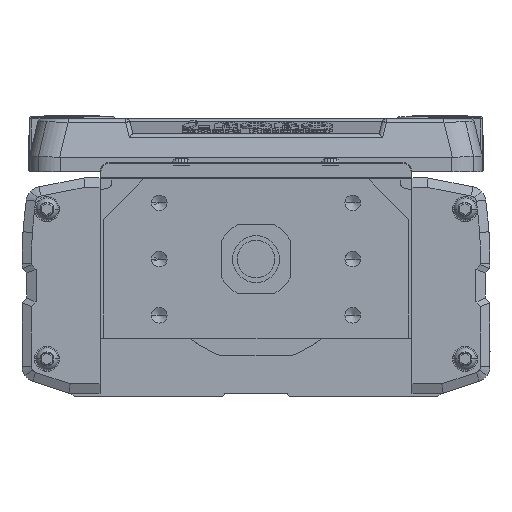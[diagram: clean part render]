
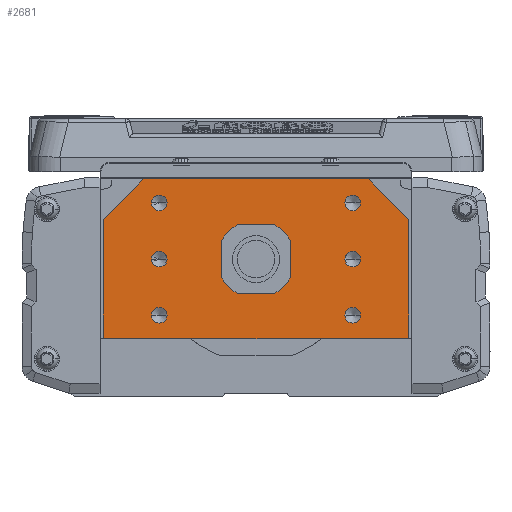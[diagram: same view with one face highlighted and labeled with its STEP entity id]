
A CAD part, left-side view. The second image highlights one B-rep face of the part: STEP entity #2681.
In plain terms, the highlighted planar face has unit normal (-1, 0, 0).
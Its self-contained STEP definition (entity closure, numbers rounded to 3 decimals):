
#2681=ADVANCED_FACE('',(#6939,#6940,#6941,#6942,#6943,#6944,#6945,#6946),#6947,.F.);
#6939=FACE_OUTER_BOUND('',#13475,.T.);
#6940=FACE_BOUND('',#13476,.T.);
#6941=FACE_BOUND('',#13477,.T.);
#6942=FACE_BOUND('',#13478,.T.);
#6943=FACE_BOUND('',#13479,.T.);
#6944=FACE_BOUND('',#13480,.T.);
#6945=FACE_BOUND('',#13481,.T.);
#6946=FACE_BOUND('',#13482,.T.);
#6947=PLANE('',#13483);
#13475=EDGE_LOOP('',(#21724,#21725,#21726,#21727,#21728,#21729,#21730,#21731));
#13476=EDGE_LOOP('',(#21732,#21733));
#13477=EDGE_LOOP('',(#21734,#21735));
#13478=EDGE_LOOP('',(#21736,#21737));
#13479=EDGE_LOOP('',(#21738,#21739));
#13480=EDGE_LOOP('',(#21740,#21741));
#13481=EDGE_LOOP('',(#21742,#21743));
#13482=EDGE_LOOP('',(#21744,#21745));
#13483=AXIS2_PLACEMENT_3D('',#21746,#21747,#21748);
#21724=ORIENTED_EDGE('',*,*,#37778,.F.);
#21725=ORIENTED_EDGE('',*,*,#38629,.F.);
#21726=ORIENTED_EDGE('',*,*,#38630,.F.);
#21727=ORIENTED_EDGE('',*,*,#38631,.F.);
#21728=ORIENTED_EDGE('',*,*,#38632,.F.);
#21729=ORIENTED_EDGE('',*,*,#38633,.F.);
#21730=ORIENTED_EDGE('',*,*,#38634,.F.);
#21731=ORIENTED_EDGE('',*,*,#38635,.F.);
#21732=ORIENTED_EDGE('',*,*,#38636,.T.);
#21733=ORIENTED_EDGE('',*,*,#38637,.T.);
#21734=ORIENTED_EDGE('',*,*,#38638,.T.);
#21735=ORIENTED_EDGE('',*,*,#38549,.T.);
#21736=ORIENTED_EDGE('',*,*,#38639,.T.);
#21737=ORIENTED_EDGE('',*,*,#38640,.T.);
#21738=ORIENTED_EDGE('',*,*,#38641,.T.);
#21739=ORIENTED_EDGE('',*,*,#38642,.T.);
#21740=ORIENTED_EDGE('',*,*,#38643,.T.);
#21741=ORIENTED_EDGE('',*,*,#38644,.T.);
#21742=ORIENTED_EDGE('',*,*,#38645,.T.);
#21743=ORIENTED_EDGE('',*,*,#38646,.T.);
#21744=ORIENTED_EDGE('',*,*,#38011,.F.);
#21745=ORIENTED_EDGE('',*,*,#38647,.F.);
#21746=CARTESIAN_POINT('',(0.,0.275,-2.548));
#21747=DIRECTION('',(1.0,0.,0.));
#21748=DIRECTION('',(0.,1.0,0.));
#37778=EDGE_CURVE('',#44822,#44823,#44824,.T.);
#38011=EDGE_CURVE('',#45240,#45235,#45242,.F.);
#38549=EDGE_CURVE('',#46182,#46180,#46183,.T.);
#38629=EDGE_CURVE('',#46321,#44822,#46322,.T.);
#38630=EDGE_CURVE('',#46323,#46321,#46324,.T.);
#38631=EDGE_CURVE('',#46325,#46323,#46326,.T.);
#38632=EDGE_CURVE('',#46327,#46325,#46328,.T.);
#38633=EDGE_CURVE('',#46329,#46327,#46330,.T.);
#38634=EDGE_CURVE('',#46331,#46329,#46332,.T.);
#38635=EDGE_CURVE('',#44823,#46331,#46333,.T.);
#38636=EDGE_CURVE('',#46334,#46335,#46336,.T.);
#38637=EDGE_CURVE('',#46335,#46334,#46337,.T.);
#38638=EDGE_CURVE('',#46180,#46182,#46338,.T.);
#38639=EDGE_CURVE('',#46339,#46340,#46341,.T.);
#38640=EDGE_CURVE('',#46340,#46339,#46342,.T.);
#38641=EDGE_CURVE('',#46343,#46344,#46345,.T.);
#38642=EDGE_CURVE('',#46344,#46343,#46346,.T.);
#38643=EDGE_CURVE('',#46347,#46348,#46349,.T.);
#38644=EDGE_CURVE('',#46348,#46347,#46350,.T.);
#38645=EDGE_CURVE('',#46351,#46352,#46353,.T.);
#38646=EDGE_CURVE('',#46352,#46351,#46354,.T.);
#38647=EDGE_CURVE('',#45235,#45240,#46355,.F.);
#44822=VERTEX_POINT('',#55088);
#44823=VERTEX_POINT('',#55089);
#44824=LINE('',#55090,#55091);
#45235=VERTEX_POINT('',#55649);
#45240=VERTEX_POINT('',#55655);
#45242=CIRCLE('',#55658,7.5);
#46180=VERTEX_POINT('',#56914);
#46182=VERTEX_POINT('',#56917);
#46183=CIRCLE('',#56918,2.5);
#46321=VERTEX_POINT('',#57131);
#46322=LINE('',#57132,#57133);
#46323=VERTEX_POINT('',#57134);
#46324=LINE('',#57135,#57136);
#46325=VERTEX_POINT('',#57137);
#46326=LINE('',#57138,#57139);
#46327=VERTEX_POINT('',#57140);
#46328=LINE('',#57141,#57142);
#46329=VERTEX_POINT('',#57143);
#46330=LINE('',#57144,#57145);
#46331=VERTEX_POINT('',#57146);
#46332=LINE('',#57147,#57148);
#46333=LINE('',#57149,#57150);
#46334=VERTEX_POINT('',#57151);
#46335=VERTEX_POINT('',#57152);
#46336=CIRCLE('',#57153,2.5);
#46337=CIRCLE('',#57154,2.5);
#46338=CIRCLE('',#57155,2.5);
#46339=VERTEX_POINT('',#57156);
#46340=VERTEX_POINT('',#57157);
#46341=CIRCLE('',#57158,2.5);
#46342=CIRCLE('',#57159,2.5);
#46343=VERTEX_POINT('',#57160);
#46344=VERTEX_POINT('',#57161);
#46345=CIRCLE('',#57162,2.5);
#46346=CIRCLE('',#57163,2.5);
#46347=VERTEX_POINT('',#57164);
#46348=VERTEX_POINT('',#57165);
#46349=CIRCLE('',#57166,2.5);
#46350=CIRCLE('',#57167,2.5);
#46351=VERTEX_POINT('',#57168);
#46352=VERTEX_POINT('',#57169);
#46353=CIRCLE('',#57170,2.5);
#46354=CIRCLE('',#57171,2.5);
#46355=CIRCLE('',#57172,7.5);
#55088=CARTESIAN_POINT('',(0.,49.,12.7));
#55089=CARTESIAN_POINT('',(0.,36.,25.7));
#55090=CARTESIAN_POINT('',(0.,37.381,24.319));
#55091=VECTOR('',#68931,10.);
#55649=CARTESIAN_POINT('',(0.,-7.5,0.));
#55655=CARTESIAN_POINT('',(0.,7.5,0.));
#55658=AXIS2_PLACEMENT_3D('',#69246,#69247,#69248);
#56914=CARTESIAN_POINT('',(0.,-33.5,-18.));
#56917=CARTESIAN_POINT('',(0.,-28.5,-18.));
#56918=AXIS2_PLACEMENT_3D('',#69995,#69996,#69997);
#57131=CARTESIAN_POINT('',(0.,49.,-25.));
#57132=CARTESIAN_POINT('',(0.,49.,-25.));
#57133=VECTOR('',#70088,10.0);
#57134=CARTESIAN_POINT('',(0.,48.5,-25.5));
#57135=CARTESIAN_POINT('',(0.,48.5,-25.5));
#57136=VECTOR('',#70089,10.0);
#57137=CARTESIAN_POINT('',(0.,-48.5,-25.5));
#57138=CARTESIAN_POINT('',(0.,0.,-25.5));
#57139=VECTOR('',#70090,10.0);
#57140=CARTESIAN_POINT('',(0.,-49.,-25.));
#57141=CARTESIAN_POINT('',(0.,-49.,-25.));
#57142=VECTOR('',#70091,10.0);
#57143=CARTESIAN_POINT('',(0.,-49.,12.7));
#57144=CARTESIAN_POINT('',(0.,-49.,-14.));
#57145=VECTOR('',#70092,10.0);
#57146=CARTESIAN_POINT('',(0.,-36.,25.7));
#57147=CARTESIAN_POINT('',(0.,-37.243,24.457));
#57148=VECTOR('',#70093,10.0);
#57149=CARTESIAN_POINT('',(0.,34.5,25.7));
#57150=VECTOR('',#70094,10.0);
#57151=CARTESIAN_POINT('',(0.,33.5,-18.));
#57152=CARTESIAN_POINT('',(0.,28.5,-18.));
#57153=AXIS2_PLACEMENT_3D('',#70095,#70096,#70097);
#57154=AXIS2_PLACEMENT_3D('',#70098,#70099,#70100);
#57155=AXIS2_PLACEMENT_3D('',#70101,#70102,#70103);
#57156=CARTESIAN_POINT('',(0.,33.5,18.));
#57157=CARTESIAN_POINT('',(0.,28.5,18.));
#57158=AXIS2_PLACEMENT_3D('',#70104,#70105,#70106);
#57159=AXIS2_PLACEMENT_3D('',#70107,#70108,#70109);
#57160=CARTESIAN_POINT('',(0.,-33.5,18.));
#57161=CARTESIAN_POINT('',(0.,-28.5,18.));
#57162=AXIS2_PLACEMENT_3D('',#70110,#70111,#70112);
#57163=AXIS2_PLACEMENT_3D('',#70113,#70114,#70115);
#57164=CARTESIAN_POINT('',(0.,33.5,0.));
#57165=CARTESIAN_POINT('',(0.,28.5,0.));
#57166=AXIS2_PLACEMENT_3D('',#70116,#70117,#70118);
#57167=AXIS2_PLACEMENT_3D('',#70119,#70120,#70121);
#57168=CARTESIAN_POINT('',(0.,-33.5,0.));
#57169=CARTESIAN_POINT('',(0.,-28.5,0.));
#57170=AXIS2_PLACEMENT_3D('',#70122,#70123,#70124);
#57171=AXIS2_PLACEMENT_3D('',#70125,#70126,#70127);
#57172=AXIS2_PLACEMENT_3D('',#70128,#70129,#70130);
#68931=DIRECTION('',(0.,-0.707,0.707));
#69246=CARTESIAN_POINT('',(0.,0.,0.));
#69247=DIRECTION('',(1.0,0.,0.));
#69248=DIRECTION('',(0.,-1.0,0.));
#69995=CARTESIAN_POINT('',(0.,-31.,-18.));
#69996=DIRECTION('',(1.0,0.,0.));
#69997=DIRECTION('',(0.,-1.0,0.));
#70088=DIRECTION('',(0.,0.,1.0));
#70089=DIRECTION('',(0.,0.707,0.707));
#70090=DIRECTION('',(0.,1.0,0.));
#70091=DIRECTION('',(0.,0.707,-0.707));
#70092=DIRECTION('',(0.,0.,-1.0));
#70093=DIRECTION('',(0.,-0.707,-0.707));
#70094=DIRECTION('',(0.,-1.0,0.));
#70095=CARTESIAN_POINT('',(0.,31.,-18.));
#70096=DIRECTION('',(1.0,0.,0.));
#70097=DIRECTION('',(0.,1.0,0.));
#70098=CARTESIAN_POINT('',(0.,31.,-18.));
#70099=DIRECTION('',(1.0,0.,0.));
#70100=DIRECTION('',(0.,1.0,0.));
#70101=CARTESIAN_POINT('',(0.,-31.,-18.));
#70102=DIRECTION('',(1.0,0.,0.));
#70103=DIRECTION('',(0.,-1.0,0.));
#70104=CARTESIAN_POINT('',(0.,31.,18.));
#70105=DIRECTION('',(1.0,0.,0.));
#70106=DIRECTION('',(0.,1.0,0.));
#70107=CARTESIAN_POINT('',(0.,31.,18.));
#70108=DIRECTION('',(1.0,0.,0.));
#70109=DIRECTION('',(0.,1.0,0.));
#70110=CARTESIAN_POINT('',(0.,-31.,18.));
#70111=DIRECTION('',(1.0,0.,0.));
#70112=DIRECTION('',(0.,-1.0,0.));
#70113=CARTESIAN_POINT('',(0.,-31.,18.));
#70114=DIRECTION('',(1.0,0.,0.));
#70115=DIRECTION('',(0.,-1.0,0.));
#70116=CARTESIAN_POINT('',(0.,31.,0.));
#70117=DIRECTION('',(1.0,0.,0.));
#70118=DIRECTION('',(0.,1.0,0.));
#70119=CARTESIAN_POINT('',(0.,31.,0.));
#70120=DIRECTION('',(1.0,0.,0.));
#70121=DIRECTION('',(0.,1.0,0.));
#70122=CARTESIAN_POINT('',(0.,-31.,0.));
#70123=DIRECTION('',(1.0,0.,0.));
#70124=DIRECTION('',(0.,-1.0,0.));
#70125=CARTESIAN_POINT('',(0.,-31.,0.));
#70126=DIRECTION('',(1.0,0.,0.));
#70127=DIRECTION('',(0.,-1.0,0.));
#70128=CARTESIAN_POINT('',(0.,0.,0.));
#70129=DIRECTION('',(1.0,0.,0.));
#70130=DIRECTION('',(0.,-1.0,0.));
